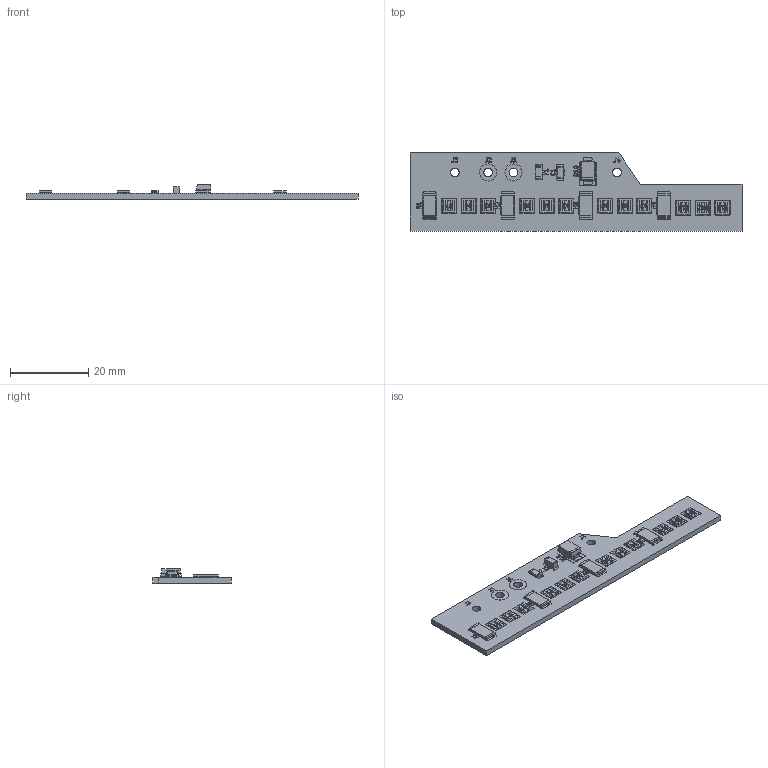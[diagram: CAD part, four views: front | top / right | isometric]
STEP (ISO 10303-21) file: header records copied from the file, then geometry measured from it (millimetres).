
FILE_DESCRIPTION(('KiCad electronic assembly'),'2;1');
FILE_NAME('rollhooplight_RSL_PCB.step','2026-04-15T22:56:07',('Pcbnew'), ('Kicad'),'Open CASCADE STEP processor 7.8','KiCad to STEP converter', 'Unknown');
FILE_SCHEMA(('AUTOMOTIVE_DESIGN { 1 0 10303 214 1 1 1 1 }'));
Length unit declared in the file: millimetre
Products named in the file (8): rollhooplight_RSL_PCB 1; R_2512_6332Metric; D_SMB; C_1206_3216Metric; Fuse_1206_3216Metric; rollhooplight_RSL_PCB_pad; rollhooplight_RSL_PCB_silkscreen; rollhooplight_RSL_PCB_PCB
Assembly tree (10 placements, depth 2):
  rollhooplight_RSL_PCB 1
    R_2512_6332Metric  x4
    D_SMB
    C_1206_3216Metric
    Fuse_1206_3216Metric
    rollhooplight_RSL_PCB_pad
    rollhooplight_RSL_PCB_silkscreen
    rollhooplight_RSL_PCB_PCB
Bounding box: 85 x 20 x 3.79 mm (x, y, z)
Volume: 2294.2 mm3; surface area: 4026.7 mm2
Topology: 64 solids, 133 shells, 661 faces, 2558 edges, 2097 vertices
Faces by surface type: plane 523, cylinder 128, bspline 10
Full cylindrical faces by diameter (mm): 2.15 x6, 2.2 x6, 4.4 x4
Entity records: 26804 total; most frequent: CARTESIAN_POINT 4977, DIRECTION 4022, ORIENTED_EDGE 3505, EDGE_CURVE 2354, VERTEX_POINT 1965, LINE 1810, VECTOR 1810, AXIS2_PLACEMENT_3D 1106
